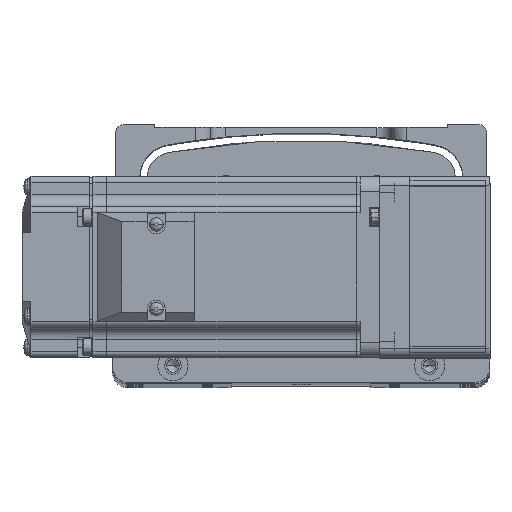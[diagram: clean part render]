
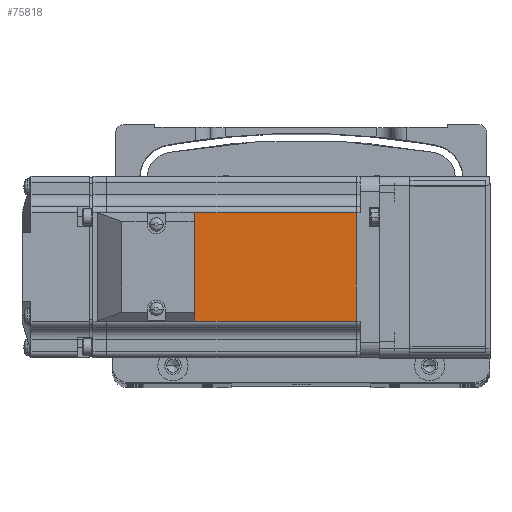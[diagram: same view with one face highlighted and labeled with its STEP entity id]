
A CAD part, top view. The second image highlights one B-rep face of the part: STEP entity #75818.
In plain terms, the highlighted planar face has unit normal (0, 0, 1) as drawn and (0, 1, 0) by its records, which use the part's own axes.
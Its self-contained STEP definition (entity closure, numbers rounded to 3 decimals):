
#250 = EDGE_LOOP ( 'NONE', ( #10778, #81588, #51718, #538 ) ) ;
#463 = CARTESIAN_POINT ( 'NONE',  ( -90.45, 30., 0. ) ) ;
#538 = ORIENTED_EDGE ( 'NONE', *, *, #68132, .T. ) ;
#700 = VERTEX_POINT ( 'NONE', #36551 ) ;
#5735 = LINE ( 'NONE', #63376, #71422 ) ;
#9792 = EDGE_CURVE ( 'NONE', #77159, #700, #36967, .T. ) ;
#10778 = ORIENTED_EDGE ( 'NONE', *, *, #64478, .F. ) ;
#16003 = VERTEX_POINT ( 'NONE', #53313 ) ;
#20467 = CARTESIAN_POINT ( 'NONE',  ( -6.5, 30., -18. ) ) ;
#26888 = DIRECTION ( 'NONE',  ( -1., 0., 0. ) ) ;
#29882 = CARTESIAN_POINT ( 'NONE',  ( -7.75, 30., 0. ) ) ;
#29884 = VECTOR ( 'NONE', #26888, 1000. ) ;
#35150 = EDGE_CURVE ( 'NONE', #65967, #77159, #78617, .T. ) ;
#36551 = CARTESIAN_POINT ( 'NONE',  ( -90.45, 30., 18. ) ) ;
#36967 = LINE ( 'NONE', #463, #49857 ) ;
#37645 = CARTESIAN_POINT ( 'NONE',  ( -6.5, 30., 25. ) ) ;
#38112 = DIRECTION ( 'NONE',  ( 1., 0., 0. ) ) ;
#38677 = AXIS2_PLACEMENT_3D ( 'NONE', #37645, #82076, #44043 ) ;
#40343 = VECTOR ( 'NONE', #74276, 1000. ) ;
#43454 = FACE_OUTER_BOUND ( 'NONE', #250, .T. ) ;
#44043 = DIRECTION ( 'NONE',  ( 0., 0., 1. ) ) ;
#45024 = DIRECTION ( 'NONE',  ( 0., 0., 1. ) ) ;
#49857 = VECTOR ( 'NONE', #45024, 1000. ) ;
#50126 = PLANE ( 'NONE',  #38677 ) ;
#51718 = ORIENTED_EDGE ( 'NONE', *, *, #9792, .T. ) ;
#53313 = CARTESIAN_POINT ( 'NONE',  ( -7.75, 30., 18. ) ) ;
#63376 = CARTESIAN_POINT ( 'NONE',  ( -6.5, 30., 18. ) ) ;
#64478 = EDGE_CURVE ( 'NONE', #65967, #16003, #74108, .T. ) ;
#65967 = VERTEX_POINT ( 'NONE', #77851 ) ;
#68132 = EDGE_CURVE ( 'NONE', #700, #16003, #5735, .T. ) ;
#71422 = VECTOR ( 'NONE', #38112, 1000. ) ;
#74108 = LINE ( 'NONE', #29882, #40343 ) ;
#74276 = DIRECTION ( 'NONE',  ( 0., 0., 1. ) ) ;
#75818 = ADVANCED_FACE ( 'NONE', ( #43454 ), #50126, .T. ) ;
#77159 = VERTEX_POINT ( 'NONE', #80437 ) ;
#77851 = CARTESIAN_POINT ( 'NONE',  ( -7.75, 30., -18. ) ) ;
#78617 = LINE ( 'NONE', #20467, #29884 ) ;
#80437 = CARTESIAN_POINT ( 'NONE',  ( -90.45, 30., -18. ) ) ;
#81588 = ORIENTED_EDGE ( 'NONE', *, *, #35150, .T. ) ;
#82076 = DIRECTION ( 'NONE',  ( 0., 1., 0. ) ) ;
